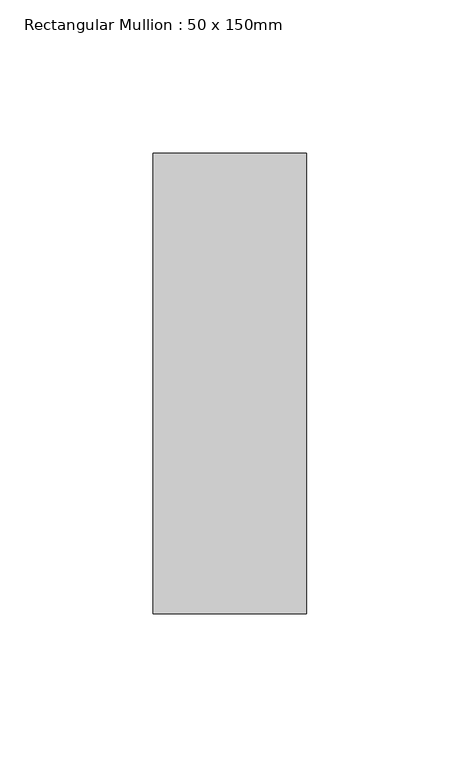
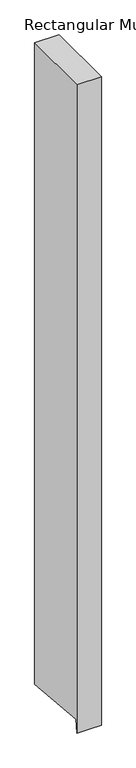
"""IFC4 building model written with IfcOpenShell, lengths in millimetres: member geometry, Rectangular Mullion : 50 x 150mm."""

from ifc_helpers import new_model, si_unit, origin, place, context, project, spatial, faceted_brep, source, transform, mapped, element, save


def rectangular_mullion_50_x_150mm_8510b6a1(model_context):
    return source(origin(), model_context, "Body", "Brep", [
        faceted_brep([(25.0, 75.0, 0.0), (-25.0, 75.0, 0.0), (-25.0, -75.0, 0.0), (25.0, -75.0, 0.0), (25.0, 75.0, -1390.1576086), (0.0, 75.0, -1390.1576086), (-25.0, 75.0, -1390.1576086), (-25.0, -72.3000691, -1376.1668332), (-25.0, -75.0, -1404.5927069), (0.0, -75.0, -1404.5927069), (25.0, -75.0, -1404.5927069), (25.0, -72.3000691, -1376.1668332), (0.0, -72.3000691, -1376.1668332)], [[[0, 1, 2, 3]], [[1, 0, 4, 5, 6]], [[2, 1, 6, 7, 8]], [[3, 2, 8, 9, 10]], [[0, 3, 10, 11, 4]], [[4, 11, 12, 5]], [[11, 10, 9, 12]], [[9, 8, 7, 12]], [[7, 6, 5, 12]]]),
    ])


if __name__ == "__main__":
    model = new_model("IFC4")
    model_context = context("Model", 3, world=origin())
    ifc_project = project(units=[si_unit("LENGTHUNIT", "METRE", prefix="MILLI")], contexts=[model_context])
    site = spatial("IfcSite", under=ifc_project)
    building = spatial("IfcBuilding", under=site)
    placement = place(None, origin())
    rectangular_mullion_50_x_150mm_shape = rectangular_mullion_50_x_150mm_8510b6a1(model_context)
    element("IfcMember", 1, ObjectType="Rectangular Mullion : 50 x 150mm", at=placement, inside=building, context=model_context, shape_type="MappedRepresentation", body=[
        mapped(rectangular_mullion_50_x_150mm_shape, transform((0.0, 0.0, 0.0), x_axis=(1.0, 0.0, 0.0), y_axis=(0.0, 1.0, 0.0), z_axis=(0.0, 0.0, 1.0))),
    ])
    save(model, "model.ifc")
